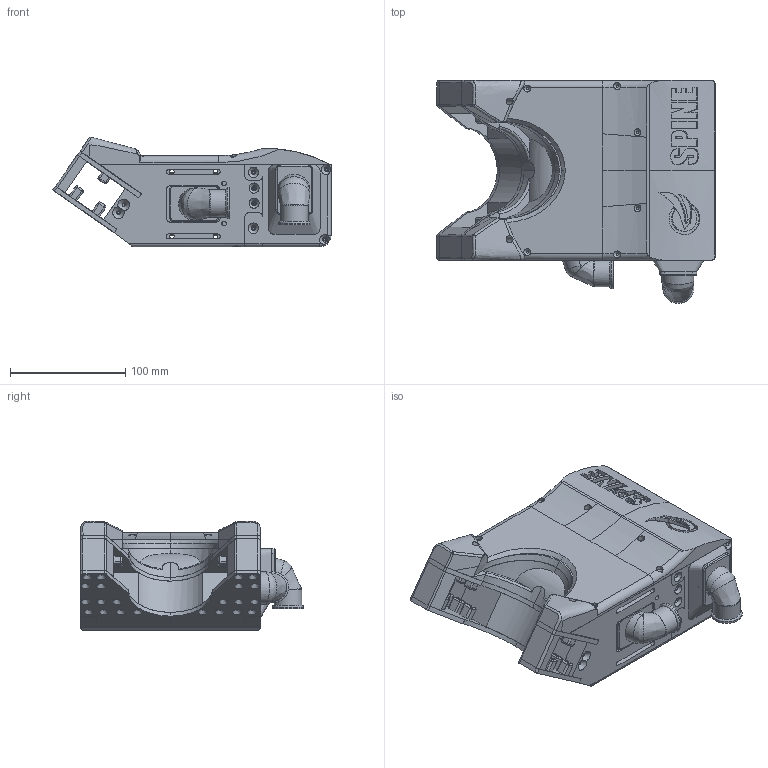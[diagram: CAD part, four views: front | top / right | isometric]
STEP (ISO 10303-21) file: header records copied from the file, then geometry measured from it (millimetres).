
FILE_DESCRIPTION(/* description */ (''),/* implementation_level */ '2;1');
FILE_NAME(/* name */ 'D:/Dropbox/Faradaymotion/Design/Spine/R/Step/Faraday Spine R1 back.stp',/* time_stamp */ '2016-03-09T17:31:40+01:00',/* author */ (''),/* organization */ (''),/* preprocessor_version */ 'ST-DEVELOPER v15.2',/* originating_system */ 'Autodesk Translator Framework v2.0.0.5431',/* authorisation */ '');
FILE_SCHEMA (('AUTOMOTIVE_DESIGN { 1 0 10303 214 3 1 1 }'));
Products named in the file (1): Faraday Spine R1 back
Bounding box: 241.62 x 193.65 x 95.04 mm (x, y, z)
Volume: 1000909.1 mm3; surface area: 418597.6 mm2
Topology: 17 solids, 18 shells, 1604 faces, 4379 edges, 2802 vertices
Faces by surface type: plane 676, cylinder 538, bspline 188, cone 74, sphere 71, torus 57
Full cylindrical faces by diameter (mm): 1.75 x2, 2 x109, 2.5 x4, 3 x9, 4 x12, 6 x8, 19 x2, 20 x2, 24 x6, 27 x2, 31 x1
Entity records: 64982 total; most frequent: CARTESIAN_POINT 26433, ORIENTED_EDGE 7990, DIRECTION 7507, EDGE_CURVE 3995, VERTEX_POINT 2699, AXIS2_PLACEMENT_3D 2675, LINE 2157, VECTOR 2157
